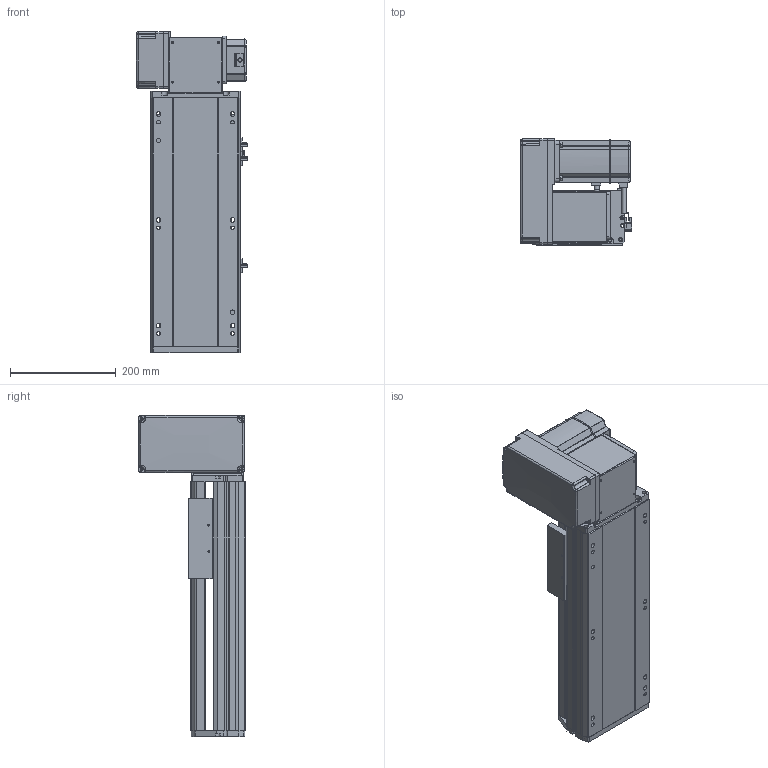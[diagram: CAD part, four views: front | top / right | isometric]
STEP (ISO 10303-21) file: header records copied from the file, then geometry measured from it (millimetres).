
FILE_DESCRIPTION (( 'STEP AP214' ), '1' );
FILE_NAME ('RTB17S-XX-200-LW-M75-C4.STEP', '2025-12-12T00:58:58', ( '' ), ( '' ), 'SwSTEP 2.0', 'SolidWorks 2018', '' );
FILE_SCHEMA (( 'AUTOMOTIVE_DESIGN' ));
Length unit declared in the file: millimetre
Products named in the file (15): EE672^RTB17S-XX-XX-LW-M75-C4; RTB17S-L-001-耜醱啣^RTB17S-XX-XX-LW-M75-C4; RTB17-R-011菁釱^RTB17S-XX-XX-LW-M75-C4; RTB17S-LW-々湍釱蚾饜-750W^RTB17S-XX-XX-LW-M75-C4; RTB22S-GY-018P^RTB17S-LW-々湍釱蚾饜-750W_RTB17S-XX-XX-LW-M75-C4; 750W萇儂^RTB17S-XX-XX-LW-M75-C4; RTB22S-GY-017P^RTB17S-LW-々湍釱蚾饜-750W_RTB17S-XX-XX-LW-M75-C4; RTB22S-GY-005P^RTB17S-LW-々湍釱蚾饜-750W_RTB17S-XX-XX-LW-M75-C4; RTB17S-L-004-賑釱^RTB17S-賑釱_RTB17S-XX-XX-LW-M75-C4; RTB17S-L-014-T20-P75--々湍釱^RTB17S-LW-々湍釱蚾饜-750W_RTB17S-XX-XX-LW-M75-C4; RTB17S-L-007奻裔^RTB17S-XX-XX-LW-M75-C4; RTB22S-GY-008-M75--萇儂啣^RTB17S-LW-々湍釱蚾饜-750W_RTB17S-XX-XX-LW-M75-C4; RTB17S-XX-200-LW-M75-C4; RTB17S-賑釱^RTB17S-XX-XX-LW-M75-C4; RTH13-BL-012覜茼え俋离^RTB17S-賑釱_RTB17S-XX-XX-LW-M75-C4
Assembly tree (17 placements, depth 3):
  RTB17S-XX-200-LW-M75-C4
    RTB17-R-011菁釱^RTB17S-XX-XX-LW-M75-C4
    EE672^RTB17S-XX-XX-LW-M75-C4  x3
    RTB17S-L-001-耜醱啣^RTB17S-XX-XX-LW-M75-C4
    RTB17S-賑釱^RTB17S-XX-XX-LW-M75-C4
      RTB17S-L-004-賑釱^RTB17S-賑釱_RTB17S-XX-XX-LW-M75-C4
      RTH13-BL-012覜茼え俋离^RTB17S-賑釱_RTB17S-XX-XX-LW-M75-C4
    RTB17S-L-007奻裔^RTB17S-XX-XX-LW-M75-C4
    750W萇儂^RTB17S-XX-XX-LW-M75-C4
    RTB17S-LW-々湍釱蚾饜-750W^RTB17S-XX-XX-LW-M75-C4
      RTB17S-L-014-T20-P75--々湍釱^RTB17S-LW-々湍釱蚾饜-750W_RTB17S-XX-XX-LW-M75-C4
      RTB22S-GY-005P^RTB17S-LW-々湍釱蚾饜-750W_RTB17S-XX-XX-LW-M75-C4
      RTB22S-GY-017P^RTB17S-LW-々湍釱蚾饜-750W_RTB17S-XX-XX-LW-M75-C4  x2
      RTB22S-GY-008-M75--萇儂啣^RTB17S-LW-々湍釱蚾饜-750W_RTB17S-XX-XX-LW-M75-C4
      RTB22S-GY-018P^RTB17S-LW-々湍釱蚾饜-750W_RTB17S-XX-XX-LW-M75-C4
Bounding box: 210.4 x 201.5 x 607.5 mm (x, y, z)
Volume: 7202833.1 mm3; surface area: 1087356.4 mm2
Topology: 17 solids, 17 shells, 2025 faces, 5566 edges, 3590 vertices
Faces by surface type: plane 962, cylinder 647, bspline 294, cone 110, sphere 8, torus 4
Entity records: 55030 total; most frequent: CARTESIAN_POINT 16030, ORIENTED_EDGE 7976, DIRECTION 7502, EDGE_CURVE 3988, AXIS2_PLACEMENT_3D 2610, VERTEX_POINT 2594, LINE 2282, VECTOR 2282
